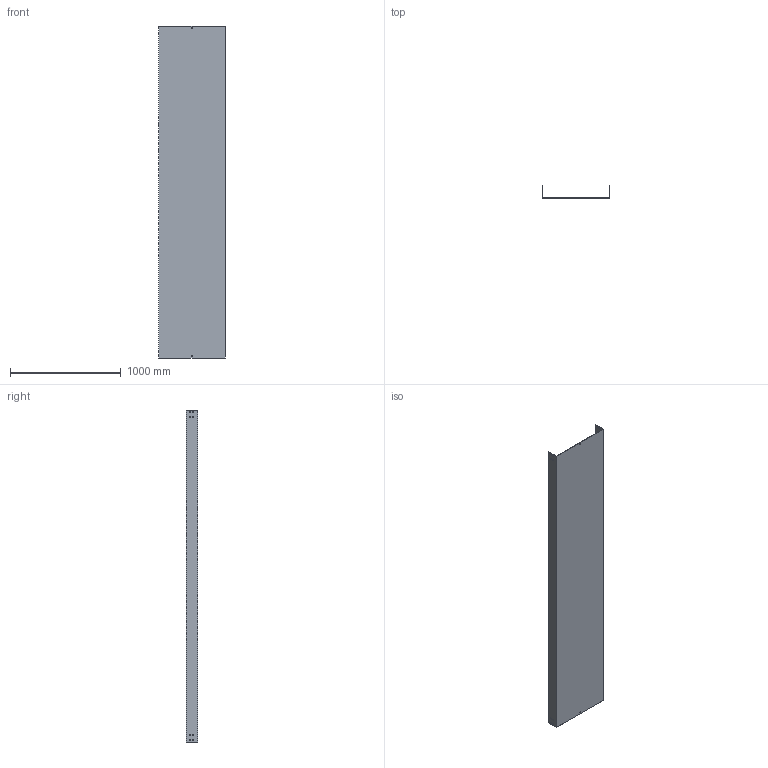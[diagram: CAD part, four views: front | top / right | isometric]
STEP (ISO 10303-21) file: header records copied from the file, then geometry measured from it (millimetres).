
FILE_DESCRIPTION (( 'STEP AP214' ), '1' );
FILE_NAME ('03F3D600.step', '2025-02-21T13:16:32', ( '' ), ( '' ), 'SwSTEP 2.0', 'SolidWorks 2023', '' );
FILE_SCHEMA (( 'AUTOMOTIVE_DESIGN' ));
Length unit declared in the file: millimetre
Products named in the file (1): 03F3D600
Bounding box: 604 x 104 x 3000 mm (x, y, z)
Volume: 8448170.5 mm3; surface area: 4856282 mm2
Topology: 1 solids, 1 shells, 82 faces, 240 edges, 160 vertices
Faces by surface type: plane 82
Entity records: 2759 total; most frequent: CARTESIAN_POINT 483, ORIENTED_EDGE 480, DIRECTION 406, EDGE_CURVE 240, VECTOR 240, LINE 240, VERTEX_POINT 160, EDGE_LOOP 118
